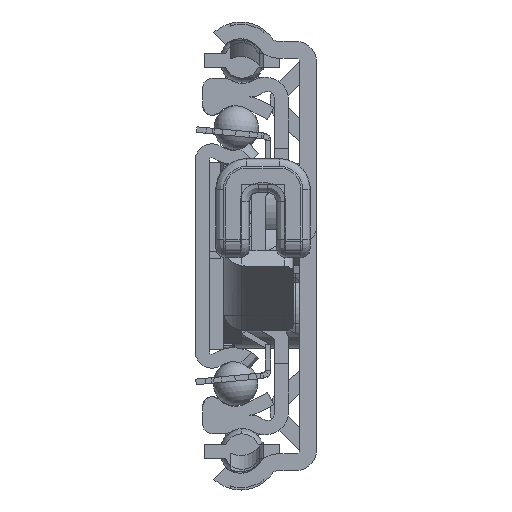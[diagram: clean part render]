
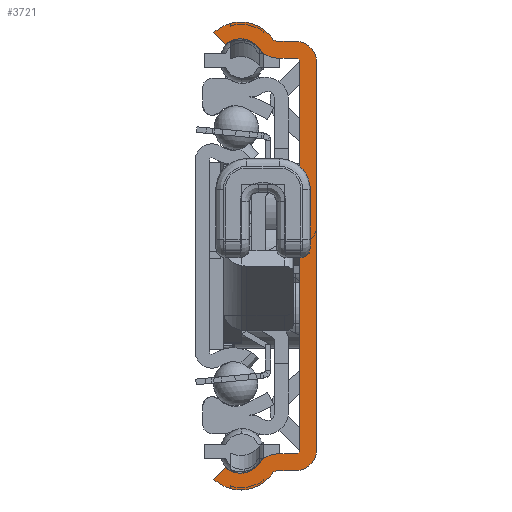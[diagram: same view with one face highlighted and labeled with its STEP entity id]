
A CAD part, left-side view. The second image highlights one B-rep face of the part: STEP entity #3721.
In plain terms, the highlighted planar face has unit normal (-1, 0, 0).
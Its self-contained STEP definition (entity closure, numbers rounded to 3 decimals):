
#1=DIRECTION('',(0.,1.,0.));
#2=VECTOR('',#1,1.975);
#3=CARTESIAN_POINT('',(0.,2.3,21.15));
#4=LINE('',#3,#2);
#5=CARTESIAN_POINT('',(0.,4.275,23.45));
#6=DIRECTION('',(-1.,0.,0.));
#7=DIRECTION('',(0.,0.827,-0.562));
#8=AXIS2_PLACEMENT_3D('',#5,#6,#7);
#10=CARTESIAN_POINT('',(0.,8.147,20.82));
#11=DIRECTION('',(-1.,0.,0.));
#12=DIRECTION('',(0.,-0.827,0.562));
#13=AXIS2_PLACEMENT_3D('',#10,#11,#12);
#15=DIRECTION('',(0.,0.683,0.731));
#16=VECTOR('',#15,1.8);
#17=CARTESIAN_POINT('',(0.,9.771,22.559));
#18=LINE('',#17,#16);
#19=CARTESIAN_POINT('',(0.,8.147,20.82));
#20=DIRECTION('',(1.,0.,0.));
#21=DIRECTION('',(0.,0.683,0.731));
#22=AXIS2_PLACEMENT_3D('',#19,#20,#21);
#24=DIRECTION('',(0.,-1.,0.));
#25=VECTOR('',#24,1.975);
#26=CARTESIAN_POINT('',(0.,4.275,22.95));
#27=LINE('',#26,#25);
#28=CARTESIAN_POINT('',(0.,2.3,20.65));
#29=DIRECTION('',(-1.,0.,0.));
#30=DIRECTION('',(0.,-1.,0.));
#31=AXIS2_PLACEMENT_3D('',#28,#29,#30);
#33=DIRECTION('',(0.,0.,-1.));
#34=VECTOR('',#33,41.3);
#35=CARTESIAN_POINT('',(0.,0.,20.65));
#36=LINE('',#35,#34);
#37=CARTESIAN_POINT('',(0.,2.3,-20.65));
#38=DIRECTION('',(-1.,0.,0.));
#39=DIRECTION('',(0.,0.,-1.));
#40=AXIS2_PLACEMENT_3D('',#37,#38,#39);
#42=DIRECTION('',(0.,1.,0.));
#43=VECTOR('',#42,1.975);
#44=CARTESIAN_POINT('',(0.,2.3,-22.95));
#45=LINE('',#44,#43);
#46=CARTESIAN_POINT('',(0.,8.147,-20.82));
#47=DIRECTION('',(1.,0.,0.));
#48=DIRECTION('',(0.,-0.827,-0.562));
#49=AXIS2_PLACEMENT_3D('',#46,#47,#48);
#51=DIRECTION('',(0.,-0.683,0.731));
#52=VECTOR('',#51,1.8);
#53=CARTESIAN_POINT('',(0.,11.,-23.875));
#54=LINE('',#53,#52);
#55=CARTESIAN_POINT('',(0.,8.147,-20.82));
#56=DIRECTION('',(-1.,0.,0.));
#57=DIRECTION('',(0.,0.683,-0.731));
#58=AXIS2_PLACEMENT_3D('',#55,#56,#57);
#60=CARTESIAN_POINT('',(0.,4.275,-23.45));
#61=DIRECTION('',(-1.,0.,0.));
#62=DIRECTION('',(0.,0.,1.));
#63=AXIS2_PLACEMENT_3D('',#60,#61,#62);
#65=DIRECTION('',(0.,-1.,0.));
#66=VECTOR('',#65,1.975);
#67=CARTESIAN_POINT('',(0.,4.275,-21.15));
#68=LINE('',#67,#66);
#181=DIRECTION('',(0.,0.,-1.));
#182=VECTOR('',#181,41.3);
#183=CARTESIAN_POINT('',(0.,1.8,20.65));
#184=LINE('',#183,#182);
#681=CARTESIAN_POINT('',(0.,2.3,-20.65));
#682=DIRECTION('',(1.,0.,0.));
#683=DIRECTION('',(0.,-1.,0.));
#684=AXIS2_PLACEMENT_3D('',#681,#682,#683);
#798=CARTESIAN_POINT('',(0.,4.275,-23.45));
#799=DIRECTION('',(1.,0.,0.));
#800=DIRECTION('',(0.,0.827,0.562));
#801=AXIS2_PLACEMENT_3D('',#798,#799,#800);
#1564=CARTESIAN_POINT('',(0.,4.275,23.45));
#1565=DIRECTION('',(1.,0.,0.));
#1566=DIRECTION('',(0.,0.,-1.));
#1567=AXIS2_PLACEMENT_3D('',#1564,#1565,#1566);
#1713=CARTESIAN_POINT('',(0.,2.3,20.65));
#1714=DIRECTION('',(1.,0.,0.));
#1715=DIRECTION('',(0.,0.,1.));
#1716=AXIS2_PLACEMENT_3D('',#1713,#1714,#1715);
#2838=CARTESIAN_POINT('',(0.,11.,-23.875));
#2839=CARTESIAN_POINT('',(0.,9.771,-22.559));
#2840=VERTEX_POINT('',#2838);
#2841=VERTEX_POINT('',#2839);
#2842=CARTESIAN_POINT('',(0.,9.771,22.559));
#2843=CARTESIAN_POINT('',(0.,11.,23.875));
#2844=VERTEX_POINT('',#2842);
#2845=VERTEX_POINT('',#2843);
#2854=CARTESIAN_POINT('',(0.,4.275,22.95));
#2855=CARTESIAN_POINT('',(0.,4.689,23.169));
#2856=VERTEX_POINT('',#2854);
#2857=VERTEX_POINT('',#2855);
#2862=CARTESIAN_POINT('',(0.,4.689,-23.169));
#2863=CARTESIAN_POINT('',(0.,4.275,-22.95));
#2864=VERTEX_POINT('',#2862);
#2865=VERTEX_POINT('',#2863);
#2870=CARTESIAN_POINT('',(0.,2.3,-21.15));
#2872=VERTEX_POINT('',#2870);
#2874=CARTESIAN_POINT('',(0.,2.3,21.15));
#2876=VERTEX_POINT('',#2874);
#2878=CARTESIAN_POINT('',(0.,1.8,-20.65));
#2879=VERTEX_POINT('',#2878);
#2882=CARTESIAN_POINT('',(0.,1.8,20.65));
#2883=VERTEX_POINT('',#2882);
#2886=CARTESIAN_POINT('',(0.,4.275,-21.15));
#2887=CARTESIAN_POINT('',(0.,6.178,-22.157));
#2888=VERTEX_POINT('',#2886);
#2889=VERTEX_POINT('',#2887);
#2894=CARTESIAN_POINT('',(0.,0.,20.65));
#2895=CARTESIAN_POINT('',(0.,2.3,22.95));
#2896=VERTEX_POINT('',#2894);
#2897=VERTEX_POINT('',#2895);
#2902=CARTESIAN_POINT('',(0.,6.178,22.157));
#2903=CARTESIAN_POINT('',(0.,4.275,21.15));
#2904=VERTEX_POINT('',#2902);
#2905=VERTEX_POINT('',#2903);
#2910=CARTESIAN_POINT('',(0.,2.3,-22.95));
#2911=CARTESIAN_POINT('',(0.,0.,-20.65));
#2912=VERTEX_POINT('',#2910);
#2913=VERTEX_POINT('',#2911);
#3674=CARTESIAN_POINT('',(0.,0.,0.));
#3675=DIRECTION('',(1.,0.,0.));
#3676=DIRECTION('',(0.,-1.,0.));
#3677=AXIS2_PLACEMENT_3D('',#3674,#3675,#3676);
#3678=PLANE('',#3677);
#3680=ORIENTED_EDGE('',*,*,#3679,.F.);
#3682=ORIENTED_EDGE('',*,*,#3681,.F.);
#3684=ORIENTED_EDGE('',*,*,#3683,.T.);
#3686=ORIENTED_EDGE('',*,*,#3685,.F.);
#3688=ORIENTED_EDGE('',*,*,#3687,.T.);
#3690=ORIENTED_EDGE('',*,*,#3689,.T.);
#3692=ORIENTED_EDGE('',*,*,#3691,.T.);
#3694=ORIENTED_EDGE('',*,*,#3693,.F.);
#3696=ORIENTED_EDGE('',*,*,#3695,.T.);
#3698=ORIENTED_EDGE('',*,*,#3697,.F.);
#3700=ORIENTED_EDGE('',*,*,#3699,.T.);
#3702=ORIENTED_EDGE('',*,*,#3701,.F.);
#3704=ORIENTED_EDGE('',*,*,#3703,.T.);
#3706=ORIENTED_EDGE('',*,*,#3705,.F.);
#3708=ORIENTED_EDGE('',*,*,#3707,.T.);
#3710=ORIENTED_EDGE('',*,*,#3709,.T.);
#3712=ORIENTED_EDGE('',*,*,#3711,.T.);
#3714=ORIENTED_EDGE('',*,*,#3713,.F.);
#3716=ORIENTED_EDGE('',*,*,#3715,.T.);
#3718=ORIENTED_EDGE('',*,*,#3717,.F.);
#3719=EDGE_LOOP('',(#3680,#3682,#3684,#3686,#3688,#3690,#3692,#3694,#3696,#3698,
#3700,#3702,#3704,#3706,#3708,#3710,#3712,#3714,#3716,#3718));
#3720=FACE_OUTER_BOUND('',#3719,.F.);
#9=CIRCLE('',#8,2.3);
#14=CIRCLE('',#13,2.38);
#23=CIRCLE('',#22,4.18);
#32=CIRCLE('',#31,2.3);
#41=CIRCLE('',#40,2.3);
#50=CIRCLE('',#49,4.18);
#59=CIRCLE('',#58,2.38);
#64=CIRCLE('',#63,2.3);
#685=CIRCLE('',#684,0.5);
#802=CIRCLE('',#801,0.5);
#1568=CIRCLE('',#1567,0.5);
#1717=CIRCLE('',#1716,0.5);
#3679=EDGE_CURVE('',#2883,#2879,#184,.T.);
#3681=EDGE_CURVE('',#2876,#2883,#1717,.T.);
#3683=EDGE_CURVE('',#2876,#2905,#4,.T.);
#3685=EDGE_CURVE('',#2904,#2905,#9,.T.);
#3687=EDGE_CURVE('',#2904,#2844,#14,.T.);
#3689=EDGE_CURVE('',#2844,#2845,#18,.T.);
#3691=EDGE_CURVE('',#2845,#2857,#23,.T.);
#3693=EDGE_CURVE('',#2856,#2857,#1568,.T.);
#3695=EDGE_CURVE('',#2856,#2897,#27,.T.);
#3697=EDGE_CURVE('',#2896,#2897,#32,.T.);
#3699=EDGE_CURVE('',#2896,#2913,#36,.T.);
#3701=EDGE_CURVE('',#2912,#2913,#41,.T.);
#3703=EDGE_CURVE('',#2912,#2865,#45,.T.);
#3705=EDGE_CURVE('',#2864,#2865,#802,.T.);
#3707=EDGE_CURVE('',#2864,#2840,#50,.T.);
#3709=EDGE_CURVE('',#2840,#2841,#54,.T.);
#3711=EDGE_CURVE('',#2841,#2889,#59,.T.);
#3713=EDGE_CURVE('',#2888,#2889,#64,.T.);
#3715=EDGE_CURVE('',#2888,#2872,#68,.T.);
#3717=EDGE_CURVE('',#2879,#2872,#685,.T.);
#3721=ADVANCED_FACE('',(#3720),#3678,.F.);
